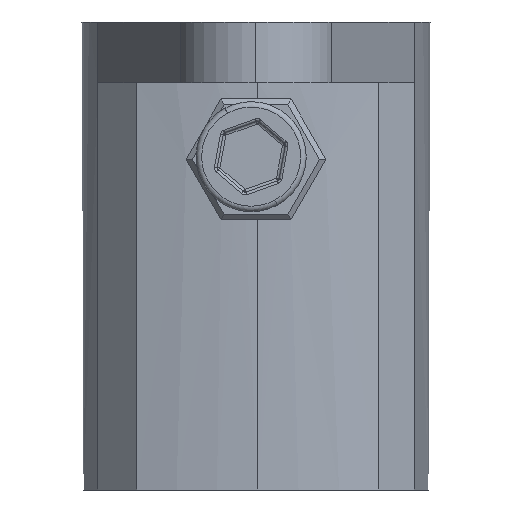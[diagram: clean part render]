
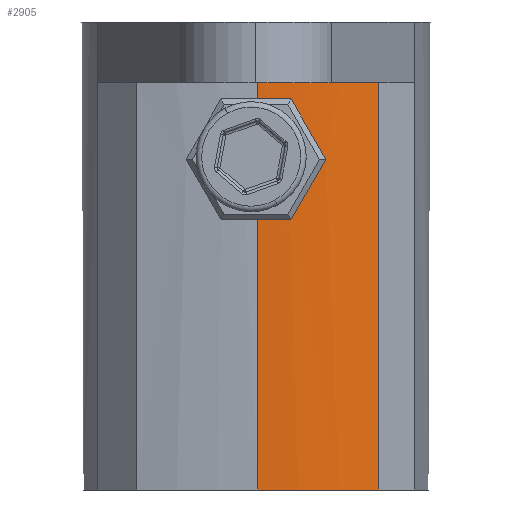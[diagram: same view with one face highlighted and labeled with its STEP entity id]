
A CAD part, left-side view. The second image highlights one B-rep face of the part: STEP entity #2905.
In plain terms, the highlighted cylindrical face has radius 42.504 mm (diameter 85.007 mm), a partial arc.
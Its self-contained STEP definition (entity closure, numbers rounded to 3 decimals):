
#20 = CARTESIAN_POINT ( 'NONE',  ( -31.896, -9.414, 37. ) ) ;
#198 = CARTESIAN_POINT ( 'NONE',  ( -33.046, -3.55, 31.847 ) ) ;
#249 = DIRECTION ( 'NONE',  ( -1., 0., 0. ) ) ;
#267 = ORIENTED_EDGE ( 'NONE', *, *, #2169, .T. ) ;
#282 = DIRECTION ( 'NONE',  ( 0., 0., -1. ) ) ;
#293 = EDGE_CURVE ( 'NONE', #1640, #3252, #1563, .T. ) ;
#310 = CARTESIAN_POINT ( 'NONE',  ( -32.891, -4.604, 30.021 ) ) ;
#384 = CARTESIAN_POINT ( 'NONE',  ( 9.16, 1.584, 0. ) ) ;
#438 = VERTEX_POINT ( 'NONE', #3333 ) ;
#455 = DIRECTION ( 'NONE',  ( 0., 0., 1. ) ) ;
#504 = CYLINDRICAL_SURFACE ( 'NONE', #4059, 42.504 ) ;
#522 = LINE ( 'NONE', #20, #1323 ) ;
#675 = AXIS2_PLACEMENT_3D ( 'NONE', #3431, #1387, #3772 ) ;
#724 = DIRECTION ( 'NONE',  ( 1., 0., 0. ) ) ;
#784 =( BOUNDED_CURVE ( )  B_SPLINE_CURVE ( 3, ( #1882, #2236, #198, #2574 ),
 .UNSPECIFIED., .F., .F. ) 
 B_SPLINE_CURVE_WITH_KNOTS ( ( 4, 4 ),
 ( 4.783, 4.858 ),
 .UNSPECIFIED. ) 
 CURVE ( )  GEOMETRIC_REPRESENTATION_ITEM ( )  RATIONAL_B_SPLINE_CURVE ( ( 1., 1., 1., 1. ) ) 
 REPRESENTATION_ITEM ( '' )  );
#791 = CARTESIAN_POINT ( 'NONE',  ( -33.237, -1.428, 35.521 ) ) ;
#808 = CARTESIAN_POINT ( 'NONE',  ( -33.344, 1.584, 37. ) ) ;
#873 = EDGE_CURVE ( 'NONE', #2618, #1172, #4088, .T. ) ;
#993 = CARTESIAN_POINT ( 'NONE',  ( -33.344, 1.584, 24.521 ) ) ;
#1005 = CIRCLE ( 'NONE', #675, 42.504 ) ;
#1139 = DIRECTION ( 'NONE',  ( 0., 0., -1. ) ) ;
#1172 = VERTEX_POINT ( 'NONE', #791 ) ;
#1323 = VECTOR ( 'NONE', #2398, 1000. ) ;
#1387 = DIRECTION ( 'NONE',  ( 0., 0., -1. ) ) ;
#1404 = DIRECTION ( 'NONE',  ( 0., 0., 1. ) ) ;
#1427 = CARTESIAN_POINT ( 'NONE',  ( -33.344, 1.584, 35.521 ) ) ;
#1506 = EDGE_LOOP ( 'NONE', ( #3712, #3985, #1587, #3770, #2031, #2265, #1750, #267, #3348 ) ) ;
#1508 = EDGE_CURVE ( 'NONE', #1172, #1640, #784, .T. ) ;
#1549 = CARTESIAN_POINT ( 'NONE',  ( -31.896, -9.414, 37. ) ) ;
#1563 =( BOUNDED_CURVE ( )  B_SPLINE_CURVE ( 3, ( #310, #2333, #2672, #2686 ),
 .UNSPECIFIED., .F., .F. ) 
 B_SPLINE_CURVE_WITH_KNOTS ( ( 4, 4 ),
 ( 4.566, 4.641 ),
 .UNSPECIFIED. ) 
 CURVE ( )  GEOMETRIC_REPRESENTATION_ITEM ( )  RATIONAL_B_SPLINE_CURVE ( ( 1., 1., 1., 1. ) ) 
 REPRESENTATION_ITEM ( '' )  );
#1587 = ORIENTED_EDGE ( 'NONE', *, *, #873, .T. ) ;
#1622 = EDGE_CURVE ( 'NONE', #2811, #3315, #522, .T. ) ;
#1640 = VERTEX_POINT ( 'NONE', #3097 ) ;
#1662 = VECTOR ( 'NONE', #1139, 1000. ) ;
#1725 = CARTESIAN_POINT ( 'NONE',  ( -33.344, 1.584, 37. ) ) ;
#1750 = ORIENTED_EDGE ( 'NONE', *, *, #2947, .T. ) ;
#1864 = EDGE_CURVE ( 'NONE', #2163, #2618, #3379, .T. ) ;
#1882 = CARTESIAN_POINT ( 'NONE',  ( -33.237, -1.428, 35.521 ) ) ;
#2031 = ORIENTED_EDGE ( 'NONE', *, *, #293, .T. ) ;
#2163 = VERTEX_POINT ( 'NONE', #1725 ) ;
#2169 = EDGE_CURVE ( 'NONE', #438, #3315, #2360, .T. ) ;
#2186 = EDGE_CURVE ( 'NONE', #2163, #2811, #4165, .T. ) ;
#2236 = CARTESIAN_POINT ( 'NONE',  ( -33.162, -2.491, 33.681 ) ) ;
#2265 = ORIENTED_EDGE ( 'NONE', *, *, #3930, .T. ) ;
#2276 = CARTESIAN_POINT ( 'NONE',  ( 9.16, 1.584, 37. ) ) ;
#2311 = FACE_OUTER_BOUND ( 'NONE', #1506, .T. ) ;
#2333 = CARTESIAN_POINT ( 'NONE',  ( -33.046, -3.55, 28.196 ) ) ;
#2360 = CIRCLE ( 'NONE', #3191, 42.504 ) ;
#2398 = DIRECTION ( 'NONE',  ( 0., 0., -1. ) ) ;
#2435 = VERTEX_POINT ( 'NONE', #993 ) ;
#2492 = CARTESIAN_POINT ( 'NONE',  ( 9.16, 1.584, 35.521 ) ) ;
#2574 = CARTESIAN_POINT ( 'NONE',  ( -32.891, -4.604, 30.021 ) ) ;
#2618 = VERTEX_POINT ( 'NONE', #1427 ) ;
#2672 = CARTESIAN_POINT ( 'NONE',  ( -33.162, -2.491, 26.362 ) ) ;
#2686 = CARTESIAN_POINT ( 'NONE',  ( -33.237, -1.428, 24.521 ) ) ;
#2767 = DIRECTION ( 'NONE',  ( 0., 0., 1. ) ) ;
#2811 = VERTEX_POINT ( 'NONE', #1549 ) ;
#2847 = DIRECTION ( 'NONE',  ( 1., 0., 0. ) ) ;
#2905 = ADVANCED_FACE ( 'NONE', ( #2311 ), #504, .T. ) ;
#2944 = CARTESIAN_POINT ( 'NONE',  ( -31.896, -9.414, 0. ) ) ;
#2947 = EDGE_CURVE ( 'NONE', #2435, #438, #3909, .T. ) ;
#3097 = CARTESIAN_POINT ( 'NONE',  ( -32.891, -4.604, 30.021 ) ) ;
#3191 = AXIS2_PLACEMENT_3D ( 'NONE', #384, #2767, #724 ) ;
#3243 = CARTESIAN_POINT ( 'NONE',  ( -33.237, -1.428, 24.521 ) ) ;
#3252 = VERTEX_POINT ( 'NONE', #3243 ) ;
#3315 = VERTEX_POINT ( 'NONE', #2944 ) ;
#3333 = CARTESIAN_POINT ( 'NONE',  ( -33.344, 1.584, 0. ) ) ;
#3348 = ORIENTED_EDGE ( 'NONE', *, *, #1622, .F. ) ;
#3379 = LINE ( 'NONE', #808, #1662 ) ;
#3431 = CARTESIAN_POINT ( 'NONE',  ( 9.16, 1.584, 24.521 ) ) ;
#3451 = CARTESIAN_POINT ( 'NONE',  ( 9.16, 1.584, 37. ) ) ;
#3641 = AXIS2_PLACEMENT_3D ( 'NONE', #3451, #1404, #3792 ) ;
#3640 = DIRECTION ( 'NONE',  ( 0., 0., -1. ) ) ;
#3712 = ORIENTED_EDGE ( 'NONE', *, *, #2186, .F. ) ;
#3770 = ORIENTED_EDGE ( 'NONE', *, *, #1508, .T. ) ;
#3772 = DIRECTION ( 'NONE',  ( -1., 0., 0. ) ) ;
#3792 = DIRECTION ( 'NONE',  ( 1., 0., 0. ) ) ;
#3811 = VECTOR ( 'NONE', #282, 1000. ) ;
#3839 = AXIS2_PLACEMENT_3D ( 'NONE', #2492, #455, #2847 ) ;
#3909 = LINE ( 'NONE', #4354, #3811 ) ;
#3930 = EDGE_CURVE ( 'NONE', #3252, #2435, #1005, .T. ) ;
#3985 = ORIENTED_EDGE ( 'NONE', *, *, #1864, .T. ) ;
#4059 = AXIS2_PLACEMENT_3D ( 'NONE', #2276, #3640, #249 ) ;
#4088 = CIRCLE ( 'NONE', #3839, 42.504 ) ;
#4165 = CIRCLE ( 'NONE', #3641, 42.504 ) ;
#4354 = CARTESIAN_POINT ( 'NONE',  ( -33.344, 1.584, 37. ) ) ;
